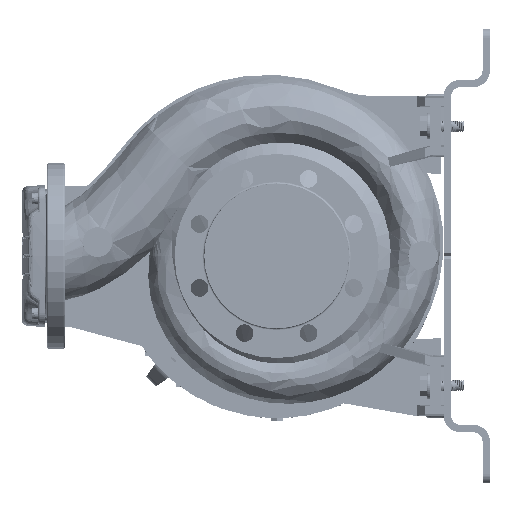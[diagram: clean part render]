
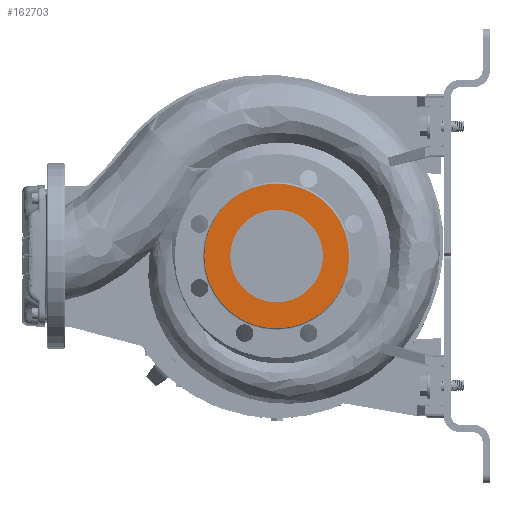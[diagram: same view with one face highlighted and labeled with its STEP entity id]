
A CAD part, left-side view. The second image highlights one B-rep face of the part: STEP entity #162703.
In plain terms, the highlighted planar face has unit normal (-1, 0, 0).
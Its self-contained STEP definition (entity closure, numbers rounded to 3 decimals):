
#5468 = CARTESIAN_POINT ( 'NONE',  ( -125., 0., 78. ) ) ;
#12030 = CARTESIAN_POINT ( 'NONE',  ( -125., 0., 0. ) ) ;
#36736 = AXIS2_PLACEMENT_3D ( 'NONE', #146209, #56562, #88137 ) ;
#38189 = ORIENTED_EDGE ( 'NONE', *, *, #159909, .F. ) ;
#52005 = CARTESIAN_POINT ( 'NONE',  ( -125., 0., -78. ) ) ;
#56562 = DIRECTION ( 'NONE',  ( 1., 0., 0. ) ) ;
#57020 = CARTESIAN_POINT ( 'NONE',  ( -125., 0., 0. ) ) ;
#67072 = DIRECTION ( 'NONE',  ( -1., 0., 0. ) ) ;
#67560 = EDGE_CURVE ( 'NONE', #155674, #199062, #86330, .T. ) ;
#68965 = ORIENTED_EDGE ( 'NONE', *, *, #98242, .F. ) ;
#71717 = DIRECTION ( 'NONE',  ( 0., 0., 1. ) ) ;
#86330 = CIRCLE ( 'NONE', #161776, 78. ) ;
#88137 = DIRECTION ( 'NONE',  ( 0., 0., -1. ) ) ;
#94260 = CARTESIAN_POINT ( 'NONE',  ( -125., 0., -50. ) ) ;
#95291 = DIRECTION ( 'NONE',  ( -1., 0., 0. ) ) ;
#96633 = CIRCLE ( 'NONE', #197203, 50. ) ;
#97073 = DIRECTION ( 'NONE',  ( -1., 0., 0. ) ) ;
#98242 = EDGE_CURVE ( 'NONE', #180184, #165665, #96633, .T. ) ;
#102341 = CIRCLE ( 'NONE', #120302, 78. ) ;
#106467 = EDGE_LOOP ( 'NONE', ( #38189, #68965 ) ) ;
#115119 = EDGE_CURVE ( 'NONE', #199062, #155674, #102341, .T. ) ;
#117285 = CARTESIAN_POINT ( 'NONE',  ( -125., 0., 0. ) ) ;
#118640 = CARTESIAN_POINT ( 'NONE',  ( -125., 0., 50. ) ) ;
#120302 = AXIS2_PLACEMENT_3D ( 'NONE', #131277, #95291, #213255 ) ;
#122346 = AXIS2_PLACEMENT_3D ( 'NONE', #57020, #208824, #71717 ) ;
#129377 = PLANE ( 'NONE',  #36736 ) ;
#131277 = CARTESIAN_POINT ( 'NONE',  ( -125., 0., 0. ) ) ;
#136669 = CIRCLE ( 'NONE', #122346, 50. ) ;
#146209 = CARTESIAN_POINT ( 'NONE',  ( -125., 0., 0. ) ) ;
#146744 = ORIENTED_EDGE ( 'NONE', *, *, #115119, .T. ) ;
#155674 = VERTEX_POINT ( 'NONE', #52005 ) ;
#159909 = EDGE_CURVE ( 'NONE', #165665, #180184, #136669, .T. ) ;
#161776 = AXIS2_PLACEMENT_3D ( 'NONE', #12030, #67072, #221064 ) ;
#162703 = ADVANCED_FACE ( 'NONE', ( #221934, #197876 ), #129377, .F. ) ;
#165665 = VERTEX_POINT ( 'NONE', #118640 ) ;
#167888 = DIRECTION ( 'NONE',  ( 0., 0., 1. ) ) ;
#174565 = EDGE_LOOP ( 'NONE', ( #146744, #189968 ) ) ;
#180184 = VERTEX_POINT ( 'NONE', #94260 ) ;
#189968 = ORIENTED_EDGE ( 'NONE', *, *, #67560, .T. ) ;
#197203 = AXIS2_PLACEMENT_3D ( 'NONE', #117285, #97073, #167888 ) ;
#197876 = FACE_OUTER_BOUND ( 'NONE', #174565, .T. ) ;
#199062 = VERTEX_POINT ( 'NONE', #5468 ) ;
#208824 = DIRECTION ( 'NONE',  ( -1., 0., 0. ) ) ;
#213255 = DIRECTION ( 'NONE',  ( 0., 0., 1. ) ) ;
#221064 = DIRECTION ( 'NONE',  ( 0., 0., 1. ) ) ;
#221934 = FACE_BOUND ( 'NONE', #106467, .T. ) ;
